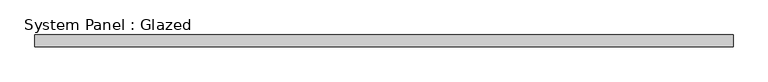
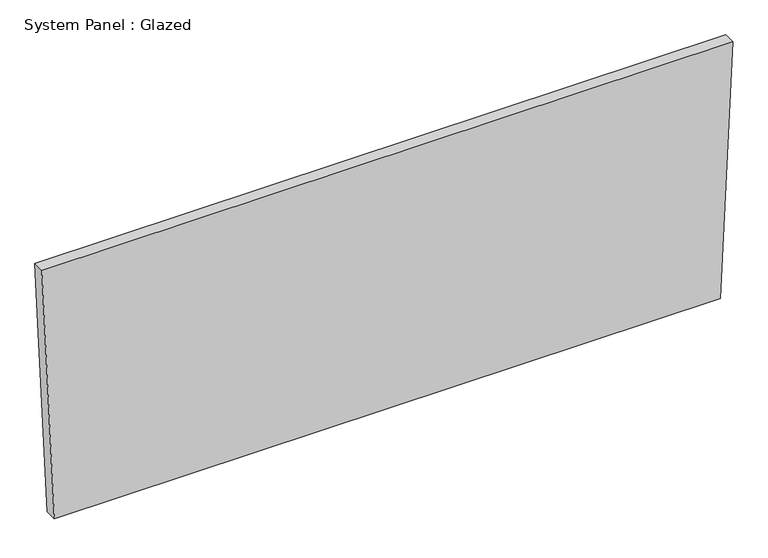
"""IFC4 building model written with IfcOpenShell, lengths in millimetres: plate geometry, System Panel : Glazed."""

from ifc_helpers import new_model, si_unit, frame, origin, place, context, project, spatial, polyline, outline, extrude, source, transform, mapped, element, save


def system_panel_glazed_9a1bcf3f(model_context):
    return source(origin(), model_context, "Body", "SweptSolid", [
        extrude(outline(polyline([(0.0, -712.0219895), (0.0, 712.0219895), (570.8339015, 738.7291447), (570.8339015, -738.7291447), (0.0, -712.0219895)])), frame((0.0, 19.05, 0.0), z_axis=(0.0, 1.0, 0.0), x_axis=(0.0, 0.0, 1.0)), (0.0, 0.0, 1.0), 25.4),
    ])


if __name__ == "__main__":
    model = new_model("IFC4")
    model_context = context("Model", 3, world=origin())
    ifc_project = project(units=[si_unit("LENGTHUNIT", "METRE", prefix="MILLI")], contexts=[model_context])
    site = spatial("IfcSite", under=ifc_project)
    building = spatial("IfcBuilding", under=site)
    placement = place(None, origin())
    system_panel_glazed_shape = system_panel_glazed_9a1bcf3f(model_context)
    element("IfcPlate", 1, ObjectType="System Panel : Glazed", at=placement, inside=building, context=model_context, shape_type="MappedRepresentation", body=[
        mapped(system_panel_glazed_shape, transform((0.0, 0.0, 0.0), x_axis=(1.0, 0.0, 0.0), y_axis=(0.0, 1.0, 0.0), z_axis=(0.0, 0.0, 1.0))),
    ])
    save(model, "model.ifc")
